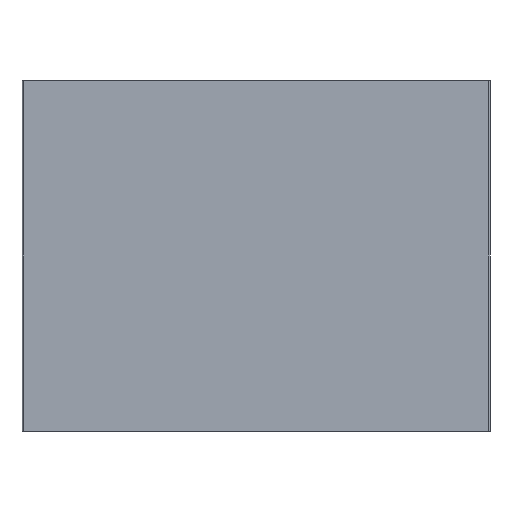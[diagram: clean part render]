
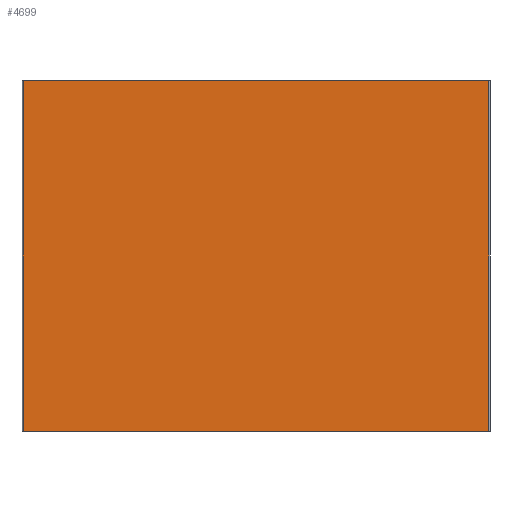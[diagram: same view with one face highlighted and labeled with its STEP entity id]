
A CAD part, front view. The second image highlights one B-rep face of the part: STEP entity #4699.
In plain terms, the highlighted planar face has unit normal (0, -1, 0).
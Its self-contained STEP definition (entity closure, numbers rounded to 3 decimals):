
#1098 = LINE ( 'NONE', #1099, #1100 ) ;
#1099 = CARTESIAN_POINT ( 'NONE',  ( 99.5, 0., 0. ) ) ;
#1100 = VECTOR ( 'NONE', #1105, 1000. ) ;
#1105 = DIRECTION ( 'NONE',  ( 1., 0., 0. ) ) ;
#1340 = LINE ( 'NONE', #1341, #1342 ) ;
#1341 = CARTESIAN_POINT ( 'NONE',  ( 99.5, 0., 150. ) ) ;
#1342 = VECTOR ( 'NONE', #1343, 1000. ) ;
#1343 = DIRECTION ( 'NONE',  ( 1., 0., 0. ) ) ;
#1805 = CARTESIAN_POINT ( 'NONE',  ( -99.5, 0., 0. ) ) ;
#1838 = FACE_OUTER_BOUND ( 'NONE', #4659, .T. ) ;
#1839 = PLANE ( 'NONE',  #1840 ) ;
#1840 = AXIS2_PLACEMENT_3D ( 'NONE', #1841, #1842, #1843 ) ;
#1841 = CARTESIAN_POINT ( 'NONE',  ( 99.5, 0., 150. ) ) ;
#1842 = DIRECTION ( 'NONE',  ( 0., 1., 0. ) ) ;
#1843 = DIRECTION ( 'NONE',  ( 0., 0., 1. ) ) ;
#2965 = CARTESIAN_POINT ( 'NONE',  ( -99.5, 0., 150. ) ) ;
#3067 = LINE ( 'NONE', #3068, #3069 ) ;
#3068 = CARTESIAN_POINT ( 'NONE',  ( -99.5, 0., 150. ) ) ;
#3069 = VECTOR ( 'NONE', #3070, 1000. ) ;
#3070 = DIRECTION ( 'NONE',  ( 0., 0., -1. ) ) ;
#3272 = CARTESIAN_POINT ( 'NONE',  ( 99.5, 0., 0. ) ) ;
#3635 = LINE ( 'NONE', #3636, #3637 ) ;
#3636 = CARTESIAN_POINT ( 'NONE',  ( 99.5, 0., 150. ) ) ;
#3637 = VECTOR ( 'NONE', #3638, 1000. ) ;
#3638 = DIRECTION ( 'NONE',  ( 0., 0., -1. ) ) ;
#3860 = CARTESIAN_POINT ( 'NONE',  ( 99.5, 0., 150. ) ) ;
#4361 = ORIENTED_EDGE ( 'NONE', *, *, #4579, .F. ) ;
#4449 = ORIENTED_EDGE ( 'NONE', *, *, #5213, .F. ) ;
#4506 = ORIENTED_EDGE ( 'NONE', *, *, #5008, .T. ) ;
#4521 = EDGE_CURVE ( 'NONE', #4689, #5073, #1098, .T. ) ;
#4575 = ORIENTED_EDGE ( 'NONE', *, *, #4521, .T. ) ;
#4579 = EDGE_CURVE ( 'NONE', #4976, #5340, #1340, .T. ) ;
#4659 = EDGE_LOOP ( 'NONE', ( #4575, #4449, #4361, #4506 ) ) ;
#4689 = VERTEX_POINT ( 'NONE', #1805 ) ;
#4699 = ADVANCED_FACE ( 'NONE', ( #1838 ), #1839, .F. ) ;
#4976 = VERTEX_POINT ( 'NONE', #2965 ) ;
#5008 = EDGE_CURVE ( 'NONE', #4976, #4689, #3067, .T. ) ;
#5073 = VERTEX_POINT ( 'NONE', #3272 ) ;
#5213 = EDGE_CURVE ( 'NONE', #5340, #5073, #3635, .T. ) ;
#5340 = VERTEX_POINT ( 'NONE', #3860 ) ;
